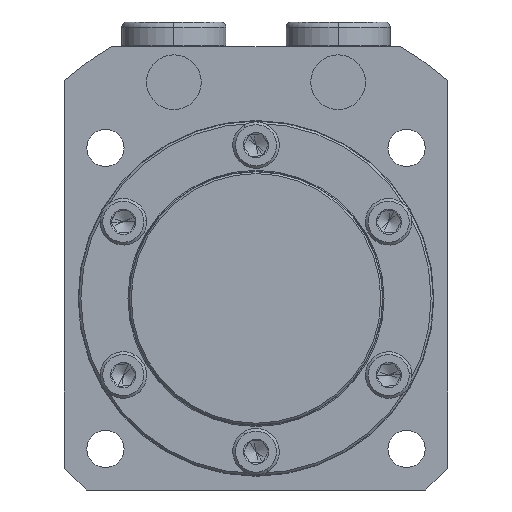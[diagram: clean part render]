
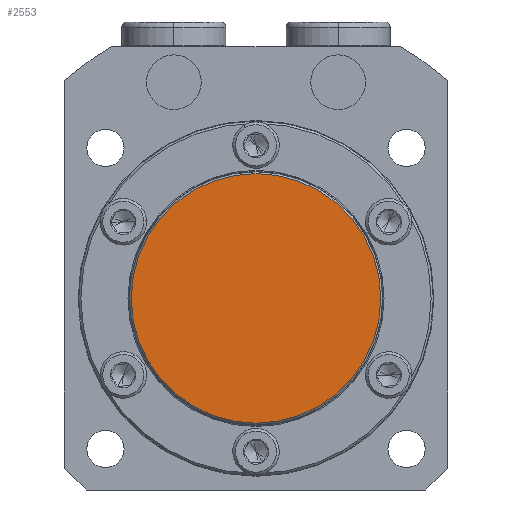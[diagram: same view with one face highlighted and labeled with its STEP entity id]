
A CAD part, front view. The second image highlights one B-rep face of the part: STEP entity #2553.
In plain terms, the highlighted planar face has unit normal (0, -1, 0).
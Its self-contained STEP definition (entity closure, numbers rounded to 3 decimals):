
#6 = AXIS2_PLACEMENT_3D ( 'NONE', #717, #718, #719 ) ;
#7 = CIRCLE ( 'NONE', #6, 22.8 ) ;
#385 = EDGE_CURVE ( 'NONE', #2161, #2164, #7, .T. ) ;
#443 = EDGE_CURVE ( 'NONE', #2164, #2161, #965, .T. ) ;
#597 = EDGE_LOOP ( 'NONE', ( #3990, #3991 ) ) ;
#717 = CARTESIAN_POINT ( 'NONE',  ( 0., -10.5, 0. ) ) ;
#718 = DIRECTION ( 'NONE',  ( 0., -1., 0. ) ) ;
#719 = DIRECTION ( 'NONE',  ( 0., 0., -1. ) ) ;
#965 = CIRCLE ( 'NONE', #968, 22.8 ) ;
#968 = AXIS2_PLACEMENT_3D ( 'NONE', #5235, #5236, #5237 ) ;
#2161 = VERTEX_POINT ( 'NONE', #4959 ) ;
#2164 = VERTEX_POINT ( 'NONE', #4962 ) ;
#2276 = AXIS2_PLACEMENT_3D ( 'NONE', #3520, #3548, #3549 ) ;
#2553 = ADVANCED_FACE ( 'NONE', ( #3544 ), #3545, .T. ) ;
#3520 = CARTESIAN_POINT ( 'NONE',  ( 0., -10.5, 0. ) ) ;
#3544 = FACE_OUTER_BOUND ( 'NONE', #597, .T. ) ;
#3545 = PLANE ( 'NONE',  #2276 ) ;
#3548 = DIRECTION ( 'NONE',  ( 0., -1., 0. ) ) ;
#3549 = DIRECTION ( 'NONE',  ( 0., 0., -1. ) ) ;
#3990 = ORIENTED_EDGE ( 'NONE', *, *, #443, .T. ) ;
#3991 = ORIENTED_EDGE ( 'NONE', *, *, #385, .T. ) ;
#4959 = CARTESIAN_POINT ( 'NONE',  ( 0., -10.5, -22.8 ) ) ;
#4962 = CARTESIAN_POINT ( 'NONE',  ( 0., -10.5, 22.8 ) ) ;
#5235 = CARTESIAN_POINT ( 'NONE',  ( 0., -10.5, 0. ) ) ;
#5236 = DIRECTION ( 'NONE',  ( 0., -1., 0. ) ) ;
#5237 = DIRECTION ( 'NONE',  ( 0., 0., -1. ) ) ;
